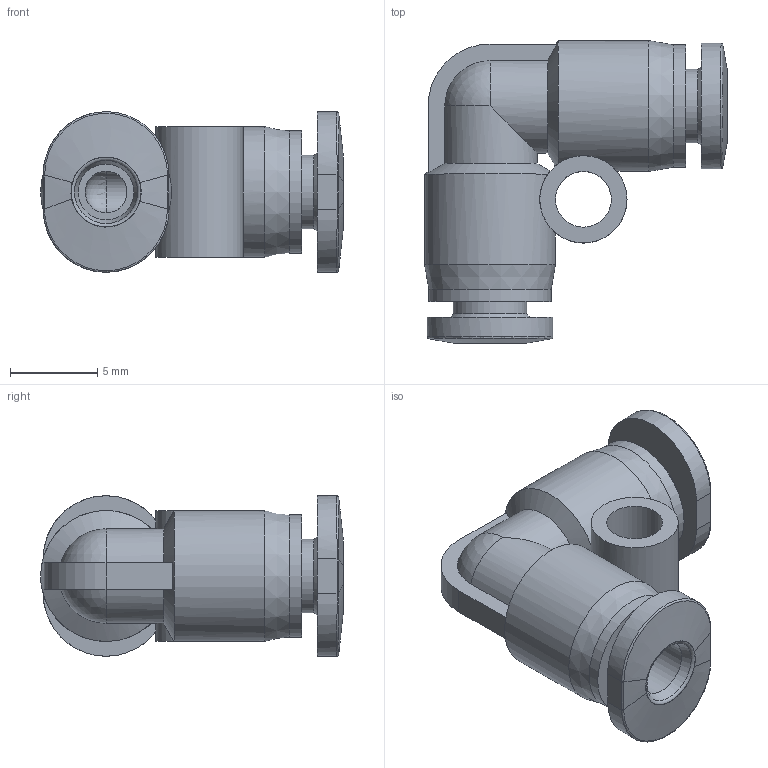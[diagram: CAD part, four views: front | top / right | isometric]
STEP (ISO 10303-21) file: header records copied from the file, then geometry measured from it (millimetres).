
FILE_DESCRIPTION((''),'2;1');
FILE_NAME('D:\INVENTOR\[New Inventor]\CDC Products 3D Ass''y\Compact\Metric\PUL-C\PUL03C.stp','2009-02-10T16:26:29',('Microsoft'),(''),'Autodesk Inventor 2008','Autodesk Inventor 2008','');
FILE_SCHEMA(('AUTOMOTIVE_DESIGN { 1 0 10303 214 1 1 1 1 }'));
Length unit declared in the file: millimetre
Products named in the file (1): PUL03C
Bounding box: 17.35 x 17.35 x 9.2 mm (x, y, z)
Volume: 875.8 mm3; surface area: 1245.8 mm2
Topology: 1 solids, 1 shells, 74 faces, 174 edges, 104 vertices
Faces by surface type: bspline 30, cylinder 17, plane 14, cone 8, sphere 3, torus 2
Full cylindrical faces by diameter (mm): 2.4 x2, 3.2 x3, 4.2 x2, 5 x1, 7 x2, 7.5 x2
Entity records: 3906 total; most frequent: CARTESIAN_POINT 2465, ORIENTED_EDGE 284, DIRECTION 252, EDGE_CURVE 142, AXIS2_PLACEMENT_3D 115, EDGE_LOOP 108, VERTEX_POINT 98, FACE_OUTER_BOUND 74
